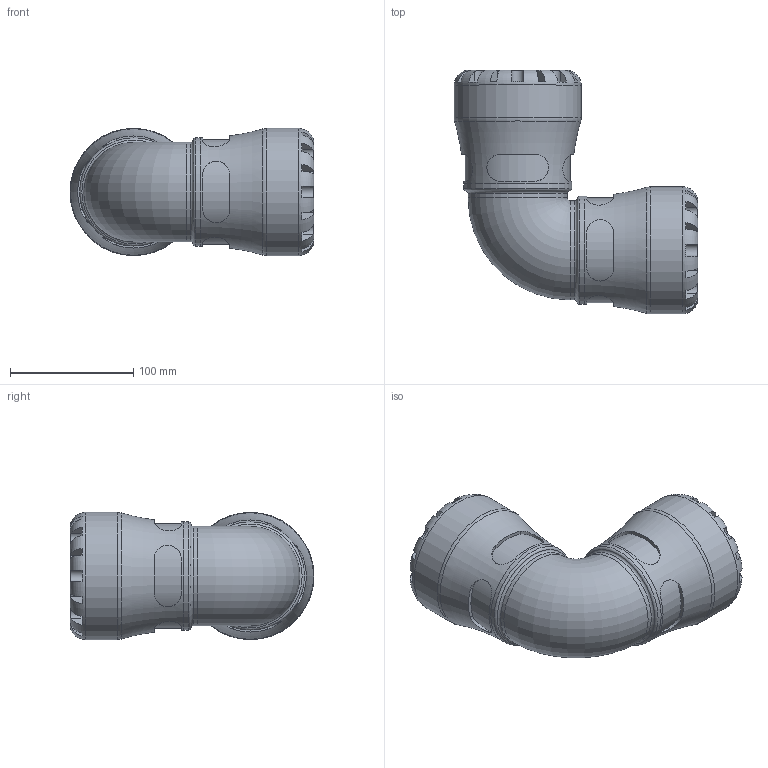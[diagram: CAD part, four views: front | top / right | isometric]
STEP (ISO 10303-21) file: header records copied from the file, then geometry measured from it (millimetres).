
FILE_DESCRIPTION(/* description */ ('PLASSON G-PLASS 90° ELBOW 63X63'),/* implementation_level */ '2;1');
FILE_NAME(/* name */ 'C:\Dropbox\KIMPROJECTS-Inventor 2019\99-16-3568-Processing\S1\150500\stp\150500063.stp',/* time_stamp */ '2023-10-17T19:35:20+03:00',/* author */ ('KIM'),/* organization */ (''),/* preprocessor_version */ 'ST-DEVELOPER v17.2',/* originating_system */ 'Autodesk Inventor 2019',/* authorisation */ '');
FILE_SCHEMA (('AUTOMOTIVE_DESIGN { 1 0 10303 214 3 1 1 }'));
Length unit declared in the file: millimetre
Products named in the file (1): 150500063
Bounding box: 197.5 x 197.5 x 103 mm (x, y, z)
Volume: 1009941.5 mm3; surface area: 148262.9 mm2
Topology: 1 solids, 1 shells, 196 faces, 521 edges, 335 vertices
Faces by surface type: plane 116, cylinder 66, torus 12, cone 2
Full cylindrical faces by diameter (mm): 52.5 x2, 63 x2, 80.34 x2, 87.55 x2, 103 x2
Entity records: 8067 total; most frequent: CARTESIAN_POINT 3029, ORIENTED_EDGE 1042, DIRECTION 1008, EDGE_CURVE 521, AXIS2_PLACEMENT_3D 418, VERTEX_POINT 335, CIRCLE 221, EDGE_LOOP 206
